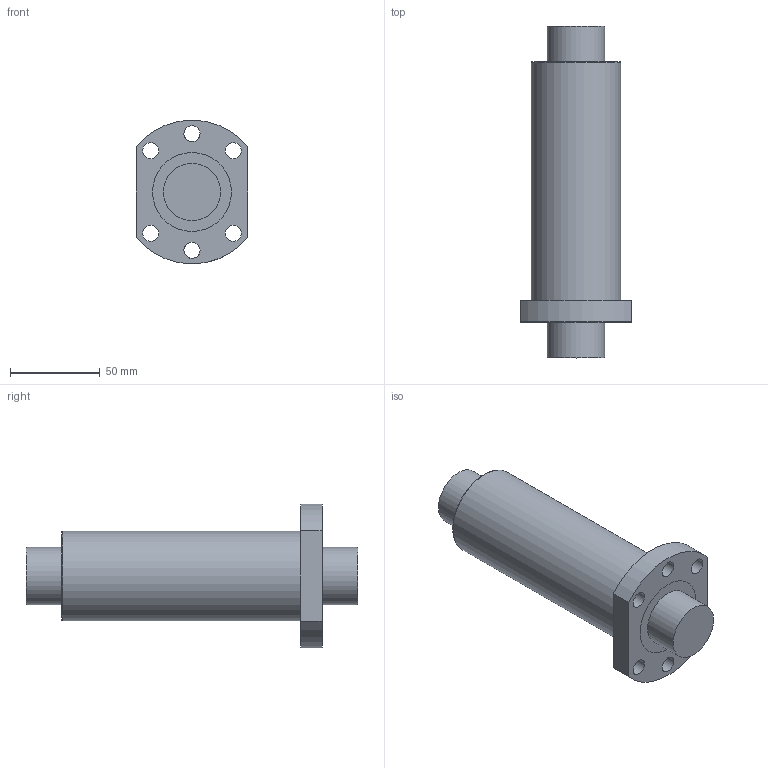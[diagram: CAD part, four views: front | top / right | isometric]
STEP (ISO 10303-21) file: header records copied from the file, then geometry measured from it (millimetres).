
FILE_DESCRIPTION(/* description */ (''),/* implementation_level */ '2;1');
FILE_NAME(/* name */ 'OFU03210-4.stp',/* time_stamp */ '2017-03-13T10:53:37+08:00',/* author */ (''),/* organization */ (''),/* preprocessor_version */ 'ST-DEVELOPER v11',/* originating_system */ 'SIEMENS UGS NX 6.0',/* authorisation */ '');
FILE_SCHEMA (('CONFIG_CONTROL_DESIGN'));
Length unit declared in the file: millimetre
Products named in the file (1): OFU03210-4
Bounding box: 62 x 185 x 79.74 mm (x, y, z)
Volume: 341229.6 mm3; surface area: 72652.5 mm2
Topology: 4 solids, 4 shells, 34 faces, 77 edges, 53 vertices
Faces by surface type: cylinder 19, plane 14, torus 1
Full cylindrical faces by diameter (mm): 4 x1, 5 x1, 9 x6, 32 x4, 44 x4, 50 x1
Entity records: 1038 total; most frequent: CARTESIAN_POINT 246, DIRECTION 154, ORIENTED_EDGE 100, EDGE_LOOP 74, AXIS2_PLACEMENT_3D 72, FACE_BOUND 68, EDGE_CURVE 50, VERTEX_POINT 44
